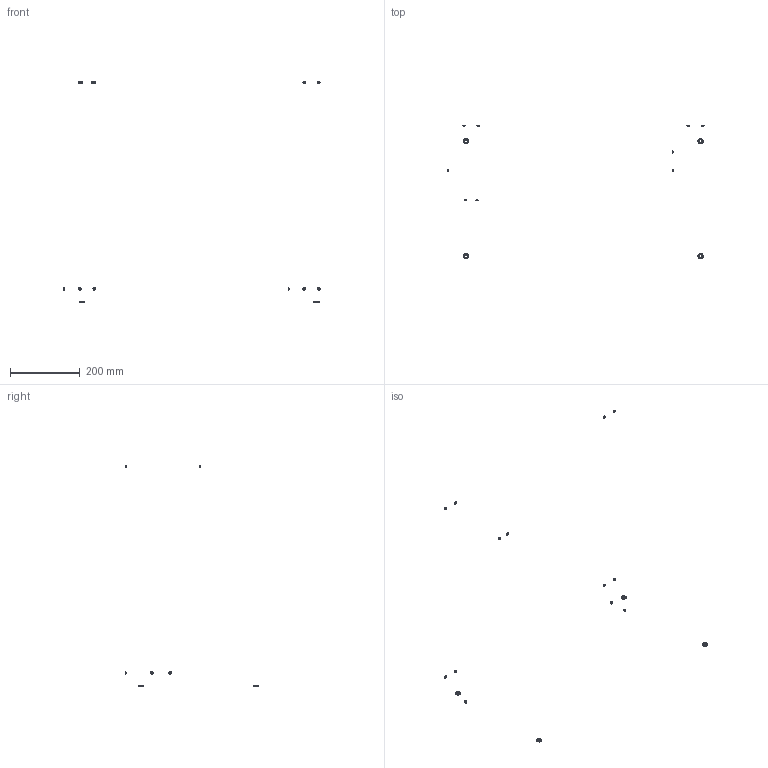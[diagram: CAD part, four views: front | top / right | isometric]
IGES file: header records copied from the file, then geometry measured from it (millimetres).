
Global section: file name: AC1095-3; native system: Autodesk RealDWG; preprocessor: Autodesk Translation Framework DWG producer (atf_dwg_producer); organization: unknown; date: 20211108.145325; units: inch
Bounding box: 734.78 x 381.68 x 635.72 mm (x, y, z)
Volume: 1239.5 mm3; surface area: 4060.6 mm2
Topology: 15 solids, 20 shells, 258 faces, 496 edges, 292 vertices
Faces by surface type: bspline 258
